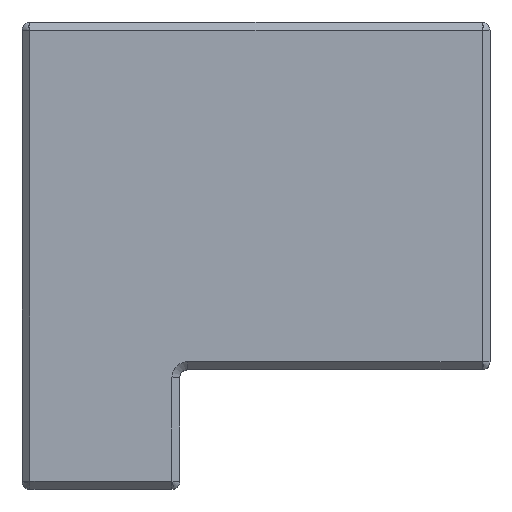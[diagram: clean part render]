
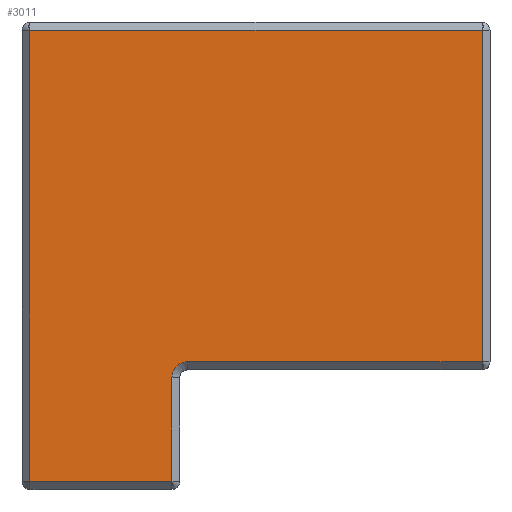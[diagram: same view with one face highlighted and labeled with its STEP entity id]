
A CAD part, top view. The second image highlights one B-rep face of the part: STEP entity #3011.
In plain terms, the highlighted planar face has unit normal (0, 0, 1).
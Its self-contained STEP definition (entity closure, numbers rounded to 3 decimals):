
#654 = PLANE('',#655);
#655 = AXIS2_PLACEMENT_3D('',#656,#657,#658);
#656 = CARTESIAN_POINT('',(71.6,-68.945,18.85));
#657 = DIRECTION('',(0.,0.707,0.707));
#658 = DIRECTION('',(1.,0.,0.));
#1639 = VERTEX_POINT('',#1640);
#1640 = CARTESIAN_POINT('',(71.6,-69.445,19.35));
#1661 = EDGE_CURVE('',#1639,#1662,#1664,.T.);
#1662 = VERTEX_POINT('',#1663);
#1663 = CARTESIAN_POINT('',(128.3,-69.445,19.35));
#1664 = SURFACE_CURVE('',#1665,(#1669,#1676),.PCURVE_S1.);
#1665 = LINE('',#1666,#1667);
#1666 = CARTESIAN_POINT('',(71.6,-69.445,19.35));
#1667 = VECTOR('',#1668,1.);
#1668 = DIRECTION('',(1.,0.,0.));
#1669 = PCURVE('',#654,#1670);
#1670 = DEFINITIONAL_REPRESENTATION('',(#1671),#1675);
#1671 = LINE('',#1672,#1673);
#1672 = CARTESIAN_POINT('',(0.,-0.707));
#1673 = VECTOR('',#1674,1.);
#1674 = DIRECTION('',(1.,0.));
#1675 = ( GEOMETRIC_REPRESENTATION_CONTEXT(2) 
PARAMETRIC_REPRESENTATION_CONTEXT() REPRESENTATION_CONTEXT('2D SPACE',''
  ) );
#1676 = PCURVE('',#1677,#1682);
#1677 = PLANE('',#1678);
#1678 = AXIS2_PLACEMENT_3D('',#1679,#1680,#1681);
#1679 = CARTESIAN_POINT('',(97.462,-95.234,19.35));
#1680 = DIRECTION('',(0.,0.,1.));
#1681 = DIRECTION('',(0.,1.,0.));
#1682 = DEFINITIONAL_REPRESENTATION('',(#1683),#1687);
#1683 = LINE('',#1684,#1685);
#1684 = CARTESIAN_POINT('',(25.789,25.862));
#1685 = VECTOR('',#1686,1.);
#1686 = DIRECTION('',(0.,-1.));
#1687 = ( GEOMETRIC_REPRESENTATION_CONTEXT(2) 
PARAMETRIC_REPRESENTATION_CONTEXT() REPRESENTATION_CONTEXT('2D SPACE',''
  ) );
#2949 = PLANE('',#2950);
#2950 = AXIS2_PLACEMENT_3D('',#2951,#2952,#2953);
#2951 = CARTESIAN_POINT('',(71.1,-126.,18.85));
#2952 = DIRECTION('',(-0.707,0.,0.707));
#2953 = DIRECTION('',(0.,1.,0.));
#3011 = ADVANCED_FACE('',(#3012),#1677,.T.);
#3012 = FACE_BOUND('',#3013,.T.);
#3013 = EDGE_LOOP('',(#3014,#3015,#3038,#3066,#3094,#3123,#3151));
#3014 = ORIENTED_EDGE('',*,*,#1661,.F.);
#3015 = ORIENTED_EDGE('',*,*,#3016,.F.);
#3016 = EDGE_CURVE('',#3017,#1639,#3019,.T.);
#3017 = VERTEX_POINT('',#3018);
#3018 = CARTESIAN_POINT('',(71.6,-126.,19.35));
#3019 = SURFACE_CURVE('',#3020,(#3024,#3031),.PCURVE_S1.);
#3020 = LINE('',#3021,#3022);
#3021 = CARTESIAN_POINT('',(71.6,-126.,19.35));
#3022 = VECTOR('',#3023,1.);
#3023 = DIRECTION('',(0.,1.,0.));
#3024 = PCURVE('',#1677,#3025);
#3025 = DEFINITIONAL_REPRESENTATION('',(#3026),#3030);
#3026 = LINE('',#3027,#3028);
#3027 = CARTESIAN_POINT('',(-30.766,25.862));
#3028 = VECTOR('',#3029,1.);
#3029 = DIRECTION('',(1.,0.));
#3030 = ( GEOMETRIC_REPRESENTATION_CONTEXT(2) 
PARAMETRIC_REPRESENTATION_CONTEXT() REPRESENTATION_CONTEXT('2D SPACE',''
  ) );
#3031 = PCURVE('',#2949,#3032);
#3032 = DEFINITIONAL_REPRESENTATION('',(#3033),#3037);
#3033 = LINE('',#3034,#3035);
#3034 = CARTESIAN_POINT('',(0.,-0.707));
#3035 = VECTOR('',#3036,1.);
#3036 = DIRECTION('',(1.,0.));
#3037 = ( GEOMETRIC_REPRESENTATION_CONTEXT(2) 
PARAMETRIC_REPRESENTATION_CONTEXT() REPRESENTATION_CONTEXT('2D SPACE',''
  ) );
#3038 = ORIENTED_EDGE('',*,*,#3039,.F.);
#3039 = EDGE_CURVE('',#3040,#3017,#3042,.T.);
#3040 = VERTEX_POINT('',#3041);
#3041 = CARTESIAN_POINT('',(89.4,-126.,19.35));
#3042 = SURFACE_CURVE('',#3043,(#3047,#3054),.PCURVE_S1.);
#3043 = LINE('',#3044,#3045);
#3044 = CARTESIAN_POINT('',(89.4,-126.,19.35));
#3045 = VECTOR('',#3046,1.);
#3046 = DIRECTION('',(-1.,0.,0.));
#3047 = PCURVE('',#1677,#3048);
#3048 = DEFINITIONAL_REPRESENTATION('',(#3049),#3053);
#3049 = LINE('',#3050,#3051);
#3050 = CARTESIAN_POINT('',(-30.766,8.062));
#3051 = VECTOR('',#3052,1.);
#3052 = DIRECTION('',(0.,1.));
#3053 = ( GEOMETRIC_REPRESENTATION_CONTEXT(2) 
PARAMETRIC_REPRESENTATION_CONTEXT() REPRESENTATION_CONTEXT('2D SPACE',''
  ) );
#3054 = PCURVE('',#3055,#3060);
#3055 = PLANE('',#3056);
#3056 = AXIS2_PLACEMENT_3D('',#3057,#3058,#3059);
#3057 = CARTESIAN_POINT('',(89.4,-126.5,18.85));
#3058 = DIRECTION('',(0.,-0.707,0.707));
#3059 = DIRECTION('',(-1.,0.,0.));
#3060 = DEFINITIONAL_REPRESENTATION('',(#3061),#3065);
#3061 = LINE('',#3062,#3063);
#3062 = CARTESIAN_POINT('',(0.,-0.707));
#3063 = VECTOR('',#3064,1.);
#3064 = DIRECTION('',(1.,0.));
#3065 = ( GEOMETRIC_REPRESENTATION_CONTEXT(2) 
PARAMETRIC_REPRESENTATION_CONTEXT() REPRESENTATION_CONTEXT('2D SPACE',''
  ) );
#3066 = ORIENTED_EDGE('',*,*,#3067,.F.);
#3067 = EDGE_CURVE('',#3068,#3040,#3070,.T.);
#3068 = VERTEX_POINT('',#3069);
#3069 = CARTESIAN_POINT('',(89.4,-113.,19.35));
#3070 = SURFACE_CURVE('',#3071,(#3075,#3082),.PCURVE_S1.);
#3071 = LINE('',#3072,#3073);
#3072 = CARTESIAN_POINT('',(89.4,-113.,19.35));
#3073 = VECTOR('',#3074,1.);
#3074 = DIRECTION('',(0.,-1.,0.));
#3075 = PCURVE('',#1677,#3076);
#3076 = DEFINITIONAL_REPRESENTATION('',(#3077),#3081);
#3077 = LINE('',#3078,#3079);
#3078 = CARTESIAN_POINT('',(-17.766,8.062));
#3079 = VECTOR('',#3080,1.);
#3080 = DIRECTION('',(-1.,0.));
#3081 = ( GEOMETRIC_REPRESENTATION_CONTEXT(2) 
PARAMETRIC_REPRESENTATION_CONTEXT() REPRESENTATION_CONTEXT('2D SPACE',''
  ) );
#3082 = PCURVE('',#3083,#3088);
#3083 = PLANE('',#3084);
#3084 = AXIS2_PLACEMENT_3D('',#3085,#3086,#3087);
#3085 = CARTESIAN_POINT('',(89.9,-113.,18.85));
#3086 = DIRECTION('',(0.707,0.,0.707));
#3087 = DIRECTION('',(0.,-1.,0.));
#3088 = DEFINITIONAL_REPRESENTATION('',(#3089),#3093);
#3089 = LINE('',#3090,#3091);
#3090 = CARTESIAN_POINT('',(0.,-0.707));
#3091 = VECTOR('',#3092,1.);
#3092 = DIRECTION('',(1.,0.));
#3093 = ( GEOMETRIC_REPRESENTATION_CONTEXT(2) 
PARAMETRIC_REPRESENTATION_CONTEXT() REPRESENTATION_CONTEXT('2D SPACE',''
  ) );
#3094 = ORIENTED_EDGE('',*,*,#3095,.F.);
#3095 = EDGE_CURVE('',#3096,#3068,#3098,.T.);
#3096 = VERTEX_POINT('',#3097);
#3097 = CARTESIAN_POINT('',(91.4,-111.,19.35));
#3098 = SURFACE_CURVE('',#3099,(#3104,#3111),.PCURVE_S1.);
#3099 = CIRCLE('',#3100,2.);
#3100 = AXIS2_PLACEMENT_3D('',#3101,#3102,#3103);
#3101 = CARTESIAN_POINT('',(91.4,-113.,19.35));
#3102 = DIRECTION('',(0.,-0.,1.));
#3103 = DIRECTION('',(0.,1.,0.));
#3104 = PCURVE('',#1677,#3105);
#3105 = DEFINITIONAL_REPRESENTATION('',(#3106),#3110);
#3106 = CIRCLE('',#3107,2.);
#3107 = AXIS2_PLACEMENT_2D('',#3108,#3109);
#3108 = CARTESIAN_POINT('',(-17.766,6.062));
#3109 = DIRECTION('',(1.,0.));
#3110 = ( GEOMETRIC_REPRESENTATION_CONTEXT(2) 
PARAMETRIC_REPRESENTATION_CONTEXT() REPRESENTATION_CONTEXT('2D SPACE',''
  ) );
#3111 = PCURVE('',#3112,#3117);
#3112 = CONICAL_SURFACE('',#3113,1.,0.785);
#3113 = AXIS2_PLACEMENT_3D('',#3114,#3115,#3116);
#3114 = CARTESIAN_POINT('',(91.4,-113.,18.35));
#3115 = DIRECTION('',(0.,0.,1.));
#3116 = DIRECTION('',(0.,1.,0.));
#3117 = DEFINITIONAL_REPRESENTATION('',(#3118),#3122);
#3118 = LINE('',#3119,#3120);
#3119 = CARTESIAN_POINT('',(-0.,1.));
#3120 = VECTOR('',#3121,1.);
#3121 = DIRECTION('',(1.,-0.));
#3122 = ( GEOMETRIC_REPRESENTATION_CONTEXT(2) 
PARAMETRIC_REPRESENTATION_CONTEXT() REPRESENTATION_CONTEXT('2D SPACE',''
  ) );
#3123 = ORIENTED_EDGE('',*,*,#3124,.F.);
#3124 = EDGE_CURVE('',#3125,#3096,#3127,.T.);
#3125 = VERTEX_POINT('',#3126);
#3126 = CARTESIAN_POINT('',(128.3,-111.,19.35));
#3127 = SURFACE_CURVE('',#3128,(#3132,#3139),.PCURVE_S1.);
#3128 = LINE('',#3129,#3130);
#3129 = CARTESIAN_POINT('',(128.3,-111.,19.35));
#3130 = VECTOR('',#3131,1.);
#3131 = DIRECTION('',(-1.,0.,0.));
#3132 = PCURVE('',#1677,#3133);
#3133 = DEFINITIONAL_REPRESENTATION('',(#3134),#3138);
#3134 = LINE('',#3135,#3136);
#3135 = CARTESIAN_POINT('',(-15.766,-30.838));
#3136 = VECTOR('',#3137,1.);
#3137 = DIRECTION('',(0.,1.));
#3138 = ( GEOMETRIC_REPRESENTATION_CONTEXT(2) 
PARAMETRIC_REPRESENTATION_CONTEXT() REPRESENTATION_CONTEXT('2D SPACE',''
  ) );
#3139 = PCURVE('',#3140,#3145);
#3140 = PLANE('',#3141);
#3141 = AXIS2_PLACEMENT_3D('',#3142,#3143,#3144);
#3142 = CARTESIAN_POINT('',(128.3,-111.5,18.85));
#3143 = DIRECTION('',(0.,-0.707,0.707));
#3144 = DIRECTION('',(-1.,0.,0.));
#3145 = DEFINITIONAL_REPRESENTATION('',(#3146),#3150);
#3146 = LINE('',#3147,#3148);
#3147 = CARTESIAN_POINT('',(0.,-0.707));
#3148 = VECTOR('',#3149,1.);
#3149 = DIRECTION('',(1.,0.));
#3150 = ( GEOMETRIC_REPRESENTATION_CONTEXT(2) 
PARAMETRIC_REPRESENTATION_CONTEXT() REPRESENTATION_CONTEXT('2D SPACE',''
  ) );
#3151 = ORIENTED_EDGE('',*,*,#3152,.F.);
#3152 = EDGE_CURVE('',#1662,#3125,#3153,.T.);
#3153 = SURFACE_CURVE('',#3154,(#3158,#3165),.PCURVE_S1.);
#3154 = LINE('',#3155,#3156);
#3155 = CARTESIAN_POINT('',(128.3,-69.445,19.35));
#3156 = VECTOR('',#3157,1.);
#3157 = DIRECTION('',(0.,-1.,0.));
#3158 = PCURVE('',#1677,#3159);
#3159 = DEFINITIONAL_REPRESENTATION('',(#3160),#3164);
#3160 = LINE('',#3161,#3162);
#3161 = CARTESIAN_POINT('',(25.789,-30.838));
#3162 = VECTOR('',#3163,1.);
#3163 = DIRECTION('',(-1.,0.));
#3164 = ( GEOMETRIC_REPRESENTATION_CONTEXT(2) 
PARAMETRIC_REPRESENTATION_CONTEXT() REPRESENTATION_CONTEXT('2D SPACE',''
  ) );
#3165 = PCURVE('',#3166,#3171);
#3166 = PLANE('',#3167);
#3167 = AXIS2_PLACEMENT_3D('',#3168,#3169,#3170);
#3168 = CARTESIAN_POINT('',(128.8,-69.445,18.85));
#3169 = DIRECTION('',(0.707,0.,0.707));
#3170 = DIRECTION('',(0.,-1.,0.));
#3171 = DEFINITIONAL_REPRESENTATION('',(#3172),#3176);
#3172 = LINE('',#3173,#3174);
#3173 = CARTESIAN_POINT('',(0.,-0.707));
#3174 = VECTOR('',#3175,1.);
#3175 = DIRECTION('',(1.,0.));
#3176 = ( GEOMETRIC_REPRESENTATION_CONTEXT(2) 
PARAMETRIC_REPRESENTATION_CONTEXT() REPRESENTATION_CONTEXT('2D SPACE',''
  ) );
